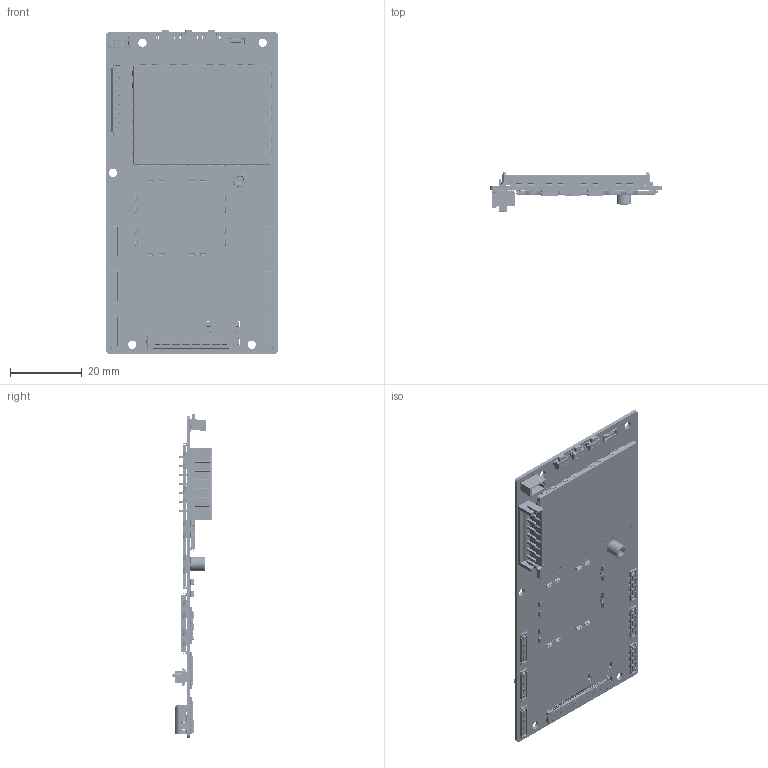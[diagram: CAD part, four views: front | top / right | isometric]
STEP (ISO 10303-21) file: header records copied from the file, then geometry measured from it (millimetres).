
FILE_DESCRIPTION((''),'2;1');
FILE_NAME('ODK_DVT_1114_ASM','2023-12-22T10:17:35',('kevinsm.chang'),(''),'CREO PARAMETRIC BY PTC INC, 2021284','CREO PARAMETRIC BY PTC INC, 2021284','');
FILE_SCHEMA(('CONFIG_CONTROL_DESIGN'));
Products named in the file (30): DRONE_MC20_ODK15_PCB_1; 5055504020_FP_REVERSE_1; JS-1132-07_2D_1; 1_0T-1-LT_SH-NA-04_2D_1; I40M20-40P1D4BM_1; JS-1132-07_FP_1; 20525-X50E-02C_RECE_1; 20633-X50T-01S_20525-X50E-02C_M; TCD_BUTTON_1; SUL-10A1M_1; DRONE_MC20_ODK15_SHIELD_T_1_ASM; DRONE_MC20_ODK15_SHIELD_B_1_ASM; ADM6-60-01_5-L-4-2-TR_1; UT12113-116B2-7H_1; 1_0LISHI4PIN_1; 1_0LISHI4PIN_2; 1_0LISHI4PIN_3; 1_0LISHI4PIN_4; 1_0LISHI4PIN_5; 1_0LISHI4PIN_6; 1_0LISHI4PIN_7; 1_0LISHI4PIN_ASM; 11-0330104-33C-1_1__ASM; DRONE_MC20_ODK15_PCB_ASSY_ASM_1_ASM; DRONE_MC20_ODK15_IO_ASSY_ASM_1_ASM; SHIELDING_CASE_B_DVT; SHIELDING_CASE_C_DVT; SHIELDING_CASE_D_DVT; AXF5D1612; ODK_DVT_1114_ASM
Assembly tree (86 placements, depth 6):
  ODK_DVT_1114_ASM
    DRONE_MC20_ODK15_IO_ASSY_ASM_1_ASM
      DRONE_MC20_ODK15_PCB_ASSY_ASM_1_ASM
        DRONE_MC20_ODK15_PCB_1
        5055504020_FP_REVERSE_1  x6
        JS-1132-07_2D_1
        1_0T-1-LT_SH-NA-04_2D_1
        I40M20-40P1D4BM_1
        JS-1132-07_FP_1
        20525-X50E-02C_RECE_1
        20633-X50T-01S_20525-X50E-02C_M
        TCD_BUTTON_1  x3
        SUL-10A1M_1  x50
        DRONE_MC20_ODK15_SHIELD_T_1_ASM
        DRONE_MC20_ODK15_SHIELD_B_1_ASM
        ADM6-60-01_5-L-4-2-TR_1
        UT12113-116B2-7H_1
        11-0330104-33C-1_1__ASM
          1_0LISHI4PIN_ASM
            1_0LISHI4PIN_1
            1_0LISHI4PIN_2
            1_0LISHI4PIN_3
            1_0LISHI4PIN_4
            1_0LISHI4PIN_5
            1_0LISHI4PIN_6
            1_0LISHI4PIN_7
    SHIELDING_CASE_B_DVT
    SHIELDING_CASE_C_DVT
    SHIELDING_CASE_D_DVT  x2
    AXF5D1612
Bounding box: 48 x 11.02 x 90.5 mm (x, y, z)
Volume: 5537.2 mm3; surface area: 20868.7 mm2
Topology: 78 solids, 99 shells, 23159 faces, 65190 edges, 42697 vertices
Faces by surface type: plane 16650, cylinder 5855, bspline 448, cone 100, extrusion 60, torus 46
Entity records: 343608 total; most frequent: CARTESIAN_POINT 65467, ORIENTED_EDGE 59200, DIRECTION 55740, EDGE_CURVE 29600, VECTOR 23930, LINE 23870, VERTEX_POINT 19297, AXIS2_PLACEMENT_3D 15905
